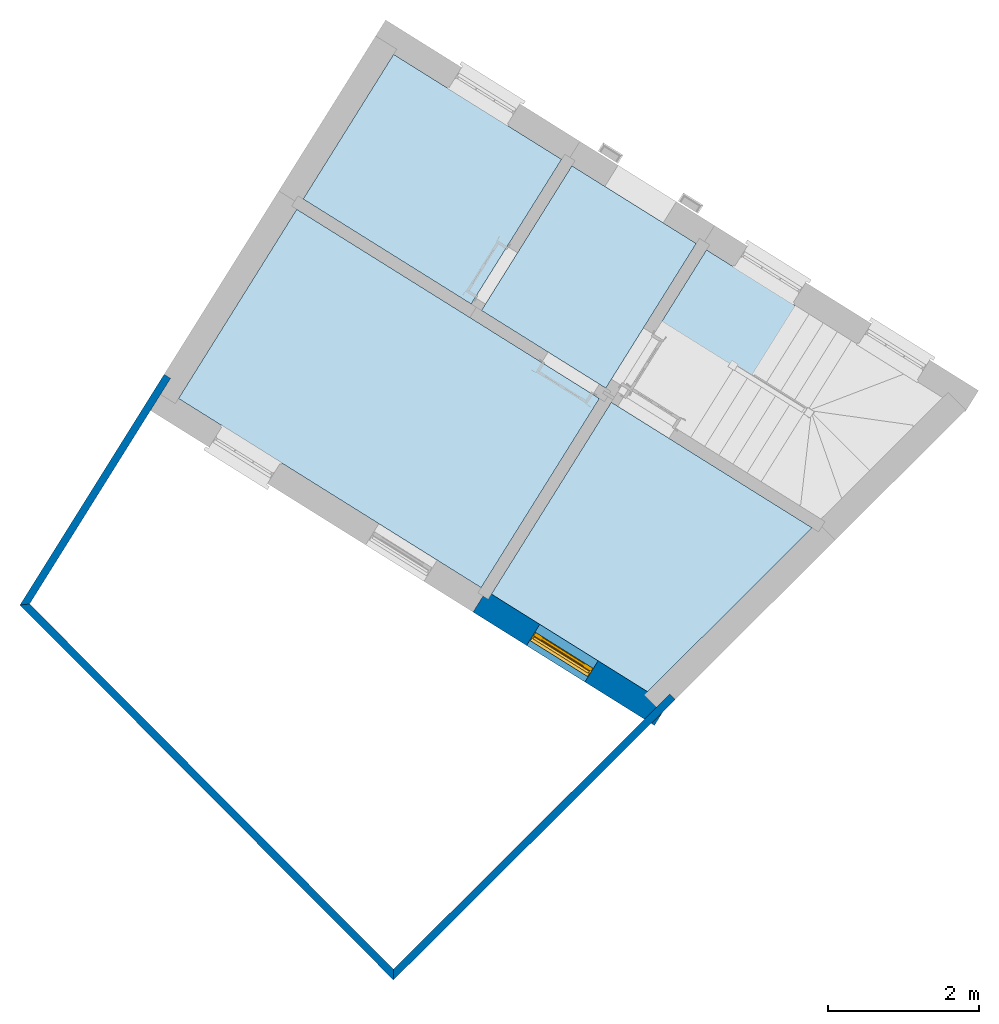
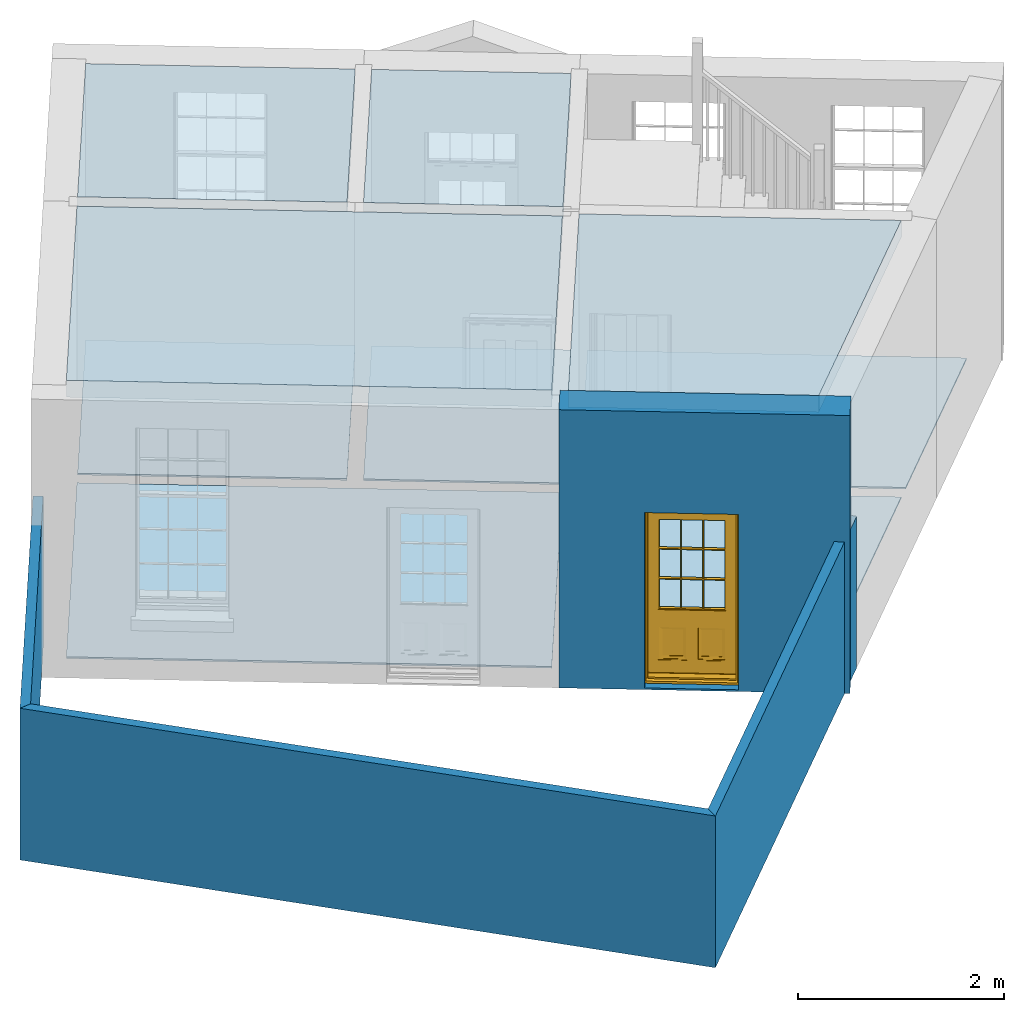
# One storey, part 1 of 5: 9 slabs, 4 walls, 1 door, 1 opening.
"""IFC4 building model written with IfcOpenShell, lengths in metres."""

import ifcopenshell
import ifcopenshell.guid

model = None  # the IFC model being written
_history = None  # IfcOwnerHistory: only IFC2X3 demands one
_inside = {}  # id of a spatial element -> (the spatial element, [elements in it])
_under = {}  # id of a project, library or spatial element -> (it, [spatial elements below it])
_declared = {}  # id of a project -> (the project, [libraries it declares])
_typed = {}  # id of a type object -> (the type object, [elements of that type])
_made_of = {}  # id of a material, layer set ... -> (it, [elements and type objects made of it])


def new_model(schema):
    """Start an empty IFC model of exactly this schema.

    Asked for "IFC4X3", IfcOpenShell would pick the latest addendum, in which some entities
    have other attributes; the version numbers below select the first issue.
    IFC2X3 requires an IfcOwnerHistory on every rooted entity: one is made here for all.
    """
    global model, _history
    if schema == "IFC4X3":
        model = ifcopenshell.file(schema_version=(4, 3, 0, 0))
    else:
        model = ifcopenshell.file(schema=schema)
    _inside.clear()
    _under.clear()
    _declared.clear()
    _typed.clear()
    _made_of.clear()
    _history = None
    if model.schema == "IFC2X3":
        org = make("IfcOrganization", Name="unknown")
        user = make(
            "IfcPersonAndOrganization",
            ThePerson=make("IfcPerson", FamilyName="unknown"),
            TheOrganization=org,
        )
        app = make(
            "IfcApplication",
            ApplicationDeveloper=org,
            Version="unknown",
            ApplicationFullName="unknown",
            ApplicationIdentifier="unknown",
        )
        _history = make(
            "IfcOwnerHistory",
            OwningUser=user,
            OwningApplication=app,
            ChangeAction="ADDED",
            CreationDate=0,
        )
    return model


def make(cls, **values):
    """One entity of the class cls with the attributes given. An attribute that is None is left unset."""
    return model.create_entity(
        cls, **{name: value for name, value in values.items() if value is not None}
    )


def rooted(cls, **values):
    """An entity with a GlobalId (a new one), such as an element, a storey or a relation."""
    return make(cls, GlobalId=ifcopenshell.guid.new(), OwnerHistory=_history, **values)


def si_unit(unit_type, name, prefix=None):
    """IfcSIUnit, for example si_unit("LENGTHUNIT", "METRE", prefix="MILLI")."""
    return make("IfcSIUnit", UnitType=unit_type, Prefix=prefix, Name=name)


def assignment(units):
    """IfcUnitAssignment: the units of a project."""
    return None if units is None else make("IfcUnitAssignment", Units=units)


def point(xyz):
    """IfcCartesianPoint."""
    return None if xyz is None else make("IfcCartesianPoint", Coordinates=xyz)


def direction(xyz):
    """IfcDirection."""
    return None if xyz is None else make("IfcDirection", DirectionRatios=xyz)


def frame(location, z_axis=None, x_axis=None):
    """IfcAxis2Placement3D, a coordinate frame: its origin and axes. An axis left out is left unset."""
    return make(
        "IfcAxis2Placement3D",
        Location=point(location),
        Axis=direction(z_axis),
        RefDirection=direction(x_axis),
    )


def origin():
    """The frame at (0, 0, 0) with its axes left unset."""
    return frame((0.0, 0.0, 0.0))


def origin_with_axes():
    """The frame at (0, 0, 0) with the z axis (0, 0, 1) and the x axis (1, 0, 0) written out."""
    return frame((0.0, 0.0, 0.0), z_axis=(0.0, 0.0, 1.0), x_axis=(1.0, 0.0, 0.0))


def place(relative_to, where):
    """IfcLocalPlacement: puts the frame where relative to a parent placement (None: the world)."""
    return make(
        "IfcLocalPlacement", PlacementRelTo=relative_to, RelativePlacement=where
    )


def context(
    kind, dimensions, precision=None, world=None, true_north=None, identifier=None
):
    """IfcGeometricRepresentationContext, for example the 3D "Model" context."""
    return make(
        "IfcGeometricRepresentationContext",
        ContextIdentifier=identifier,
        ContextType=kind,
        CoordinateSpaceDimension=dimensions,
        Precision=precision,
        WorldCoordinateSystem=world,
        TrueNorth=true_north,
    )


def subcontext(parent, identifier, kind, view, scale=None):
    """IfcGeometricRepresentationSubContext, for example "Body" below "Model"."""
    return make(
        "IfcGeometricRepresentationSubContext",
        ContextIdentifier=identifier,
        ContextType=kind,
        ParentContext=parent,
        TargetScale=scale,
        TargetView=view,
    )


def project(units=None, contexts=None):
    """IfcProject with its units and contexts."""
    return rooted(
        "IfcProject",
        Name="project",
        RepresentationContexts=contexts,
        UnitsInContext=assignment(units),
    )


def spatial(cls, under=None, at=None, **own):
    """A site, building, storey or space (cls), placed at a placement, below another one or the project."""
    s = rooted(cls, ObjectPlacement=at, **own)
    if under is not None:
        _under.setdefault(under.id(), (under, []))[1].append(s)
    return s


def polyline(points):
    """IfcPolyline through the points."""
    return make("IfcPolyline", Points=[point(p) for p in points])


def outline(outer, holes=None, kind="AREA"):
    """IfcArbitraryClosedProfileDef: a profile drawn as a closed curve; with holes, ...WithVoids."""
    if holes is None:
        return make("IfcArbitraryClosedProfileDef", ProfileType=kind, OuterCurve=outer)
    return make(
        "IfcArbitraryProfileDefWithVoids",
        ProfileType=kind,
        OuterCurve=outer,
        InnerCurves=holes,
    )


def extrude(swept, where, along, depth):
    """IfcExtrudedAreaSolid: the profile swept, set in the frame where, extruded along a direction by depth."""
    return make(
        "IfcExtrudedAreaSolid",
        SweptArea=swept,
        Position=where,
        ExtrudedDirection=direction(along),
        Depth=depth,
    )


def faces_of(points, faces, orient=None, outer=None):
    """IfcFace entities. A face is a list of loops; a loop is a list of indices into points, from 0.

    orient and outer hold one flag for each loop. By default every Orientation is true, the
    first loop of a face is its IfcFaceOuterBound and the others are IfcFaceBound.
    """
    made = []
    for i, loops in enumerate(faces):
        bounds = []
        for j, loop in enumerate(loops):
            is_outer = j == 0 if outer is None else outer[i][j]
            bounds.append(
                make(
                    "IfcFaceOuterBound" if is_outer else "IfcFaceBound",
                    Bound=make("IfcPolyLoop", Polygon=[points[k] for k in loop]),
                    Orientation=True if orient is None else orient[i][j],
                )
            )
        made.append(make("IfcFace", Bounds=bounds))
    return made


def faceted_brep(points, faces, orient=None, outer=None, voids=None):
    """IfcFacetedBrep: a solid bounded by flat faces; with voids (closed shells), ...WithVoids."""
    shared = [point(p) for p in points]
    hull = make("IfcClosedShell", CfsFaces=faces_of(shared, faces, orient, outer))
    if voids is None:
        return make("IfcFacetedBrep", Outer=hull)
    return make(
        "IfcFacetedBrepWithVoids",
        Outer=hull,
        Voids=[
            make(cls, CfsFaces=faces_of(shared, fs, o, b)) for cls, fs, o, b in voids
        ],
    )


def shape(context_of_items, identifier, shape_type, items):
    """IfcShapeRepresentation: the items that make up one representation, for example the "Body"."""
    return make(
        "IfcShapeRepresentation",
        ContextOfItems=context_of_items,
        RepresentationIdentifier=identifier,
        RepresentationType=shape_type,
        Items=items,
    )


def source(mapping_origin, context_of_items, identifier, shape_type, items):
    """IfcRepresentationMap: a shape defined once, which mapped items show again and again."""
    return make(
        "IfcRepresentationMap",
        MappingOrigin=mapping_origin,
        MappedRepresentation=shape(context_of_items, identifier, shape_type, items),
    )


def transform(
    local_origin,
    x_axis=None,
    y_axis=None,
    z_axis=None,
    scale=None,
    scale2=None,
    scale3=None,
    uniform=True,
):
    """IfcCartesianTransformationOperator3D, or its non-uniform kind. x_axis, y_axis, z_axis: its Axis1, 2, 3."""
    if uniform:
        return make(
            "IfcCartesianTransformationOperator3D",
            Axis1=direction(x_axis),
            Axis2=direction(y_axis),
            LocalOrigin=point(local_origin),
            Scale=scale,
            Axis3=direction(z_axis),
        )
    return make(
        "IfcCartesianTransformationOperator3DnonUniform",
        Axis1=direction(x_axis),
        Axis2=direction(y_axis),
        LocalOrigin=point(local_origin),
        Scale=scale,
        Axis3=direction(z_axis),
        Scale2=scale2,
        Scale3=scale3,
    )


def mapped(mapping_source, mapping_target):
    """IfcMappedItem: shows the shape of a source again, moved by a transform."""
    return make(
        "IfcMappedItem", MappingSource=mapping_source, MappingTarget=mapping_target
    )


def material(Name=None, Category=None):
    """IfcMaterial."""
    return make("IfcMaterial", Name=Name, Category=Category)


def layer(
    of_material, thickness, ventilated=None, Name=None, Category=None, Priority=None
):
    """IfcMaterialLayer: one layer of a wall or slab, of a material (None: an air gap)."""
    return make(
        "IfcMaterialLayer",
        Material=of_material,
        LayerThickness=thickness,
        IsVentilated=ventilated,
        Name=Name,
        Category=Category,
        Priority=Priority,
    )


def layer_set(layers, Name=None):
    """IfcMaterialLayerSet."""
    return make("IfcMaterialLayerSet", MaterialLayers=layers, LayerSetName=Name)


def layer_usage(for_layer_set, set_direction, sense, offset, extent=None):
    """IfcMaterialLayerSetUsage: how a layer set lies in its element."""
    return make(
        "IfcMaterialLayerSetUsage",
        ForLayerSet=for_layer_set,
        LayerSetDirection=set_direction,
        DirectionSense=sense,
        OffsetFromReferenceLine=offset,
        ReferenceExtent=extent,
    )


def made_of(thing, what):
    """Note that an element or type object is made of a material, layer set ...; save() writes the relation."""
    if what is not None:
        _made_of.setdefault(what.id(), (what, []))[1].append(thing)
    return thing


def type_object(cls, material=None, **own):
    """A type object (cls), such as IfcWallType, which elements share."""
    return made_of(rooted(cls, **own), material)


def type_shapes(of_type, sources):
    """Give a type object the sources (RepresentationMaps) that its elements show as mapped items."""
    of_type.RepresentationMaps = sources


def element(
    cls,
    number,
    at=None,
    inside=None,
    cuts=None,
    type_object=None,
    material=None,
    context=None,
    identifier="Body",
    shape_type=None,
    held_by="IfcProductDefinitionShape",
    body=None,
    shapes=None,
    **own,
):
    """One element of the class cls, such as IfcWall. Its Tag is "e" and its number.

    at: its placement. inside: the storey or other place that contains it. cuts: it is an
    opening in that element (IfcRelVoidsElement). A single representation is given by context,
    identifier, shape_type and body (its items); several are given by shapes. held_by: the class
    of the entity that holds the representations. save() writes the other relations.
    """
    e = rooted(cls, Tag="e%d" % number, ObjectPlacement=at, **own)
    if body is not None:
        shapes = [shape(context, identifier, shape_type, body)]
    if shapes is not None:
        e.Representation = make(held_by, Representations=shapes)
    if inside is not None:
        _inside.setdefault(inside.id(), (inside, []))[1].append(e)
    if cuts is not None:
        rooted(
            "IfcRelVoidsElement", RelatingBuildingElement=cuts, RelatedOpeningElement=e
        )
    if type_object is not None:
        _typed.setdefault(type_object.id(), (type_object, []))[1].append(e)
    return made_of(e, material)


def fill(opening, filler):
    """IfcRelFillsElement: the door or window that sits in an opening."""
    return rooted(
        "IfcRelFillsElement",
        RelatingOpeningElement=opening,
        RelatedBuildingElement=filler,
    )


def aggregate(whole, parts):
    """IfcRelAggregates: a whole, such as a stair, and the parts it consists of."""
    return rooted("IfcRelAggregates", RelatingObject=whole, RelatedObjects=parts)


def save(model, path):
    """Write the relations noted so far, then the file.

    IfcRelAggregates (storeys below a building ...), IfcRelContainedInSpatialStructure (elements
    in a storey), IfcRelDefinesByType, IfcRelAssociatesMaterial and IfcRelDeclares: one each for
    every whole, place, type object, material and project.
    """
    for whole, parts in _under.values():
        aggregate(whole, parts)
    for where, things in _inside.values():
        rooted(
            "IfcRelContainedInSpatialStructure",
            RelatedElements=things,
            RelatingStructure=where,
        )
    for kind, things in _typed.values():
        rooted("IfcRelDefinesByType", RelatedObjects=things, RelatingType=kind)
    for what, things in _made_of.values():
        rooted("IfcRelAssociatesMaterial", RelatedObjects=things, RelatingMaterial=what)
    for by, libraries in _declared.values():
        rooted("IfcRelDeclares", RelatingContext=by, RelatedDefinitions=libraries)
    model.write(path)


model = new_model("IFC4")

# Units and contexts
model_context = context("Model", 3, world=origin_with_axes())
body_context = subcontext(model_context, "Body", "Model", "MODEL_VIEW")
ifc_project = project(units=[si_unit("PLANEANGLEUNIT", "RADIAN"), si_unit("MASSUNIT", "GRAM", prefix="KILO"), si_unit("FORCEUNIT", "NEWTON", prefix="KILO"), si_unit("LENGTHUNIT", "METRE"), si_unit("AREAUNIT", "SQUARE_METRE"), si_unit("VOLUMEUNIT", "CUBIC_METRE")], contexts=[model_context, model_context])

# Sites, building, storey
site_1_placement = place(None, origin_with_axes())
site_1 = spatial("IfcSite", under=ifc_project, at=site_1_placement, Name="Tamar")
site_2_placement = place(site_1_placement, origin_with_axes())
site_2 = spatial("IfcSite", under=site_1, at=site_2_placement, Name="Site plot-4", CompositionType="ELEMENT")
building_placement = place(None, origin_with_axes())
building = spatial("IfcBuilding", under=site_2, at=building_placement, Name="Building plot-4", CompositionType="ELEMENT")
storey_placement = place(None, frame((0.0, 0.0, 24.5), z_axis=(0.0, 0.0, 1.0), x_axis=(1.0, 0.0, 0.0)))
storey = spatial("IfcBuildingStorey", under=building, at=storey_placement, Name="plot-4 0", CompositionType="ELEMENT", Elevation=24.5)

# Slabs
slab_1_placement = place(storey_placement, frame((226.438338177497, 279.911492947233, 0.0)))
element("IfcSlab", 1, at=slab_1_placement, inside=storey, Name="My Slab", ObjectType="Slab", PredefinedType="FLOOR", context=body_context, shape_type="SweptSolid", body=[
    extrude(outline(polyline([(0.0, 0.0), (1.61213438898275, 1.60548165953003), (-1.51402882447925, 3.55947500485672), (-2.68851033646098, 1.68044051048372), (0.0, 0.0)])), origin_with_axes(), (0.0, 0.0, 1.0), 0.02),
])
slab_2_placement = place(storey_placement, frame((223.665023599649, 281.456256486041, 3.1)))
element("IfcSlab", 2, at=slab_2_placement, inside=storey, Name="My Slab", ObjectType="Slab", PredefinedType="FLOOR", context=body_context, shape_type="SweptSolid", body=[
    extrude(outline(polyline([(0.0, 0.0), (-1.58587509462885, -2.53721661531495), (0.480081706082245, -3.82853301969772), (2.65690931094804, -1.66068844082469), (0.0, 0.0)])), origin_with_axes(), (0.0, 0.0, 1.0), 0.2),
])
slab_3_placement = place(storey_placement, frame((223.665023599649, 281.456256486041, 0.0)))
element("IfcSlab", 3, at=slab_3_placement, inside=storey, Name="My Slab", ObjectType="Slab", PredefinedType="FLOOR", context=body_context, shape_type="SweptSolid", body=[
    extrude(outline(polyline([(0.0, 0.0), (-1.58587509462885, -2.53721661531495), (0.480081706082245, -3.82853301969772), (2.65690931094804, -1.66068844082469), (0.0, 0.0)])), origin_with_axes(), (0.0, 0.0, 1.0), 0.02),
])
slab_4_placement = place(storey_placement, frame((219.504855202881, 284.008485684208, 3.1)))
element("IfcSlab", 4, at=slab_4_placement, inside=storey, Name="My Slab", ObjectType="Slab", PredefinedType="FLOOR", context=body_context, shape_type="SweptSolid", body=[
    extrude(outline(polyline([(0.0, 0.0), (-1.5642725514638, -2.50265504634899), (2.43861633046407, -5.00464157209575), (4.00288888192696, -2.5019865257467), (0.0, 0.0)])), origin_with_axes(), (0.0, 0.0, 1.0), 0.2),
])
slab_5_placement = place(storey_placement, frame((219.504855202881, 284.008485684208, 0.0)))
element("IfcSlab", 5, at=slab_5_placement, inside=storey, Name="My Slab", ObjectType="Slab", PredefinedType="FLOOR", context=body_context, shape_type="SweptSolid", body=[
    extrude(outline(polyline([(0.0, 0.0), (-1.5642725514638, -2.50265504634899), (2.43861633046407, -5.00464157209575), (4.00288888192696, -2.5019865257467), (0.0, 0.0)])), origin_with_axes(), (0.0, 0.0, 1.0), 0.02),
])
slab_6_placement = place(storey_placement, frame((224.788632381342, 283.555772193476, 3.1)))
element("IfcSlab", 6, at=slab_6_placement, inside=storey, Name="My Slab", ObjectType="Slab", PredefinedType="FLOOR", context=body_context, shape_type="SweptSolid", body=[
    extrude(outline(polyline([(0.0, 0.0), (-1.6449898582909, 1.02819303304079), (-2.84107391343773, -0.885403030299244), (-1.19608405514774, -1.91359606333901), (0.0, 0.0)])), origin_with_axes(), (0.0, 0.0, 1.0), 0.2),
])
slab_7_placement = place(storey_placement, frame((224.788632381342, 283.555772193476, 0.0)))
element("IfcSlab", 7, at=slab_7_placement, inside=storey, Name="My Slab", ObjectType="Slab", PredefinedType="FLOOR", context=body_context, shape_type="SweptSolid", body=[
    extrude(outline(polyline([(0.0, 0.0), (-1.6449898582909, 1.02819303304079), (-2.84107391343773, -0.885403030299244), (-1.19608405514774, -1.91359606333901), (0.0, 0.0)])), origin_with_axes(), (0.0, 0.0, 1.0), 0.02),
])
slab_8_placement = place(storey_placement, frame((223.007965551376, 284.668769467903, 3.1)))
element("IfcSlab", 8, at=slab_8_placement, inside=storey, Name="My Slab", ObjectType="Slab", PredefinedType="FLOOR", context=body_context, shape_type="SweptSolid", body=[
    extrude(outline(polyline([(0.0, 0.0), (-2.22222205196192, 1.38898925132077), (-3.41830610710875, -0.524606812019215), (-1.19608405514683, -1.91359606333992), (0.0, 0.0)])), origin_with_axes(), (0.0, 0.0, 1.0), 0.2),
])
slab_9_placement = place(storey_placement, frame((223.007965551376, 284.668769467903, 0.0)))
element("IfcSlab", 9, at=slab_9_placement, inside=storey, Name="My Slab", ObjectType="Slab", PredefinedType="FLOOR", context=body_context, shape_type="SweptSolid", body=[
    extrude(outline(polyline([(0.0, 0.0), (-2.22222205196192, 1.38898925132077), (-3.41830610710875, -0.524606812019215), (-1.19608405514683, -1.91359606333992), (0.0, 0.0)])), origin_with_axes(), (0.0, 0.0, 1.0), 0.02),
])

# Wall, opening, door
ifc_material_1 = material(Name="Masonry")
ifc_layer_1 = layer(ifc_material_1, 0.33, ventilated=False)
ifc_layer_set_1 = layer_set([ifc_layer_1], Name="exterior_0.08_0.25")
ifc_layer_usage_1 = layer_usage(ifc_layer_set_1, "AXIS2", "POSITIVE", -0.25)
wall_type_1 = type_object("IfcWallType", Name="exterior_0.08_0.25", PredefinedType="SOLIDWALL", material=ifc_layer_set_1)
wall_1_placement = place(storey_placement, frame((221.96890789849, 278.893603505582, 0.0), z_axis=(0.0, 0.0, 1.0), x_axis=(0.847981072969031, -0.530026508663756, 0.0)))
wall_1 = element("IfcWall", 10, at=wall_1_placement, inside=storey, type_object=wall_type_1, material=ifc_layer_usage_1, Name="exterior", context=body_context, shape_type="SweptSolid", body=[
    extrude(outline(polyline([(-9.40979266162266e-15, 0.0799999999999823), (2.26026254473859e-14, -0.250000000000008), (2.82983238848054, -0.250000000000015), (2.82983238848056, 0.0800000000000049), (-9.40979266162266e-15, 0.0799999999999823)])), origin_with_axes(), (0.0, 0.0, 1.0), 3.3),
])
opening_placement = place(wall_1_placement, frame((0.834916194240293, 0.0, 0.0199999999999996)))
opening = element("IfcOpeningElement", 11, at=opening_placement, cuts=wall_1, Name="My Opening", ObjectType="Opening", context=body_context, shape_type="SweptSolid", body=[
    extrude(outline(polyline([(0.0, -0.270000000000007), (0.90999999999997, -0.269999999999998), (0.909999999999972, 1.09999999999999), (2.44249065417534e-15, 1.09999999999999), (0.0, -0.270000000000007)])), origin_with_axes(), (0.0, 0.0, 1.0), 2.08),
])
door_type = type_object("IfcDoorType", Name="door_panelled", OperationType="SINGLE_SWING_LEFT", PredefinedType="NOTDEFINED")
shared_shape = source(origin(), body_context, "Body", "Brep", [
    faceted_brep([(0.545, 0.195, 0.265), (0.745, 0.195, 0.265), (0.745, 0.2, 0.265), (0.545, 0.2, 0.265), (0.745, 0.2, 0.58), (0.545, 0.2, 0.58), (0.545, 0.195, 0.58), (0.515, 0.19, 0.235), (0.775, 0.19, 0.235), (0.745, 0.195, 0.58), (0.515, 0.19, 0.61), (0.515, 0.185, 0.235), (0.775, 0.185, 0.235), (0.775, 0.19, 0.61), (0.515, 0.185, 0.61), (0.785, 0.185, 0.225), (0.505, 0.185, 0.225), (0.775, 0.185, 0.61), (0.505, 0.185, 0.62), (0.785, 0.185, 0.62), (0.505, 0.18, 0.225), (0.785, 0.18, 0.225), (0.505, 0.18, 0.62), (0.785, 0.18, 0.62), (0.883, 0.18, 0.075), (0.898, 0.18, 0.075), (0.405, 0.18, 0.62), (0.405, 0.18, 0.225), (0.027, 0.18, 0.075), (0.785, 0.18, 0.82), (0.125, 0.18, 0.82), (0.405, 0.185, 0.62), (0.405, 0.185, 0.225), (0.898, 0.18, 2.068), (0.027, 0.17, 0.075), (0.883, 0.17, 0.075), (0.125, 0.18, 0.225), (0.012, 0.18, 0.075), (0.785, 0.19, 0.82), (0.125, 0.19, 0.82), (0.125, 0.18, 0.62), (0.125, 0.185, 0.62), (0.395, 0.185, 0.61), (0.395, 0.185, 0.235), (0.125, 0.185, 0.225), (0.785, 0.18, 1.895), (0.027, 0.14, 0.045), (0.883, 0.14, 0.045), (0.558333, 0.19, 0.83), (0.351667, 0.19, 0.83), (0.125, 0.18, 1.895), (0.125, 0.19, 1.895), (0.785, 0.19, 1.895), (0.012, 0.18, 2.068), (0.135, 0.185, 0.61), (0.395, 0.19, 0.61), (0.395, 0.19, 0.235), (0.135, 0.185, 0.235), (0.027, 0.14, 0.027), (0.883, 0.14, 0.027), (0.568333, 0.19, 0.83), (0.558333, 0.22, 0.83), (0.351667, 0.22, 0.83), (0.341667, 0.19, 0.83), (0.135, 0.19, 1.185), (0.135, 0.19, 1.53), (0.775, 0.19, 1.53), (0.775, 0.19, 1.185), (0.135, 0.19, 0.61), (0.365, 0.195, 0.58), (0.365, 0.195, 0.265), (0.135, 0.19, 0.235), (0.568333, 0.19, 1.175), (0.558333, 0.19, 1.175), (0.775, 0.19, 0.83), (0.558333, 0.22, 1.175), (0.785, 0.22, 0.82), (0.125, 0.22, 0.82), (0.351667, 0.22, 1.175), (0.351667, 0.19, 1.175), (0.341667, 0.19, 1.175), (0.135, 0.19, 0.83), (0.135, 0.19, 1.175), (0.135, 0.22, 1.185), (0.135, 0.22, 1.53), (0.135, 0.19, 1.54), (0.351667, 0.19, 1.885), (0.558333, 0.19, 1.885), (0.775, 0.22, 1.53), (0.775, 0.22, 1.185), (0.775, 0.19, 1.175), (0.775, 0.19, 1.54), (0.165, 0.195, 0.58), (0.365, 0.2, 0.58), (0.365, 0.2, 0.265), (0.165, 0.195, 0.265), (0.568333, 0.22, 0.83), (0.568333, 0.22, 1.175), (0.568333, 0.19, 1.185), (0.558333, 0.19, 1.185), (0.775, 0.22, 0.83), (0.785, 0.23, 0.82), (0.125, 0.23, 0.82), (0.341667, 0.22, 0.83), (0.341667, 0.22, 1.175), (0.351667, 0.19, 1.185), (0.341667, 0.19, 1.185), (0.135, 0.22, 0.83), (0.341667, 0.22, 1.185), (0.125, 0.22, 1.895), (0.341667, 0.22, 1.53), (0.341667, 0.19, 1.53), (0.135, 0.19, 1.885), (0.341667, 0.19, 1.54), (0.341667, 0.19, 1.885), (0.558333, 0.22, 1.885), (0.351667, 0.22, 1.885), (0.568333, 0.19, 1.885), (0.785, 0.22, 1.895), (0.568333, 0.22, 1.185), (0.568333, 0.19, 1.53), (0.568333, 0.22, 1.53), (0.568333, 0.19, 1.54), (0.775, 0.19, 1.885), (0.165, 0.2, 0.58), (0.165, 0.2, 0.265), (0.775, 0.22, 1.175), (0.558333, 0.19, 1.53), (0.351667, 0.22, 1.185), (0.558333, 0.22, 1.185), (0.505, 0.23, 0.62), (0.405, 0.23, 0.62), (0.125, 0.23, 1.895), (0.785, 0.23, 1.895), (0.351667, 0.19, 1.53), (0.135, 0.22, 1.175), (0.135, 0.22, 1.54), (0.341667, 0.22, 1.54), (0.135, 0.22, 1.885), (0.351667, 0.19, 1.54), (0.558333, 0.22, 1.54), (0.558333, 0.19, 1.54), (0.351667, 0.22, 1.54), (0.775, 0.22, 1.54), (0.568333, 0.22, 1.54), (0.775, 0.22, 1.885), (0.558333, 0.22, 1.53), (0.405, 0.23, 0.225), (0.505, 0.23, 0.225), (0.125, 0.23, 0.62), (0.785, 0.23, 0.62), (0.012, 0.23, 2.068), (0.898, 0.23, 2.068), (0.351667, 0.22, 1.53), (0.341667, 0.22, 1.885), (0.568333, 0.22, 1.885), (0.405, 0.225, 0.225), (0.405, 0.225, 0.62), (0.505, 0.225, 0.62), (0.505, 0.225, 0.225), (0.898, 0.23, 0.027), (0.012, 0.23, 0.027), (0.125, 0.225, 0.62), (0.785, 0.225, 0.62), (0.395, 0.225, 0.235), (0.395, 0.225, 0.61), (0.125, 0.23, 0.225), (0.125, 0.225, 0.225), (0.515, 0.225, 0.61), (0.515, 0.225, 0.235), (0.785, 0.23, 0.225), (0.785, 0.225, 0.225), (0.135, 0.225, 0.61), (0.775, 0.225, 0.61), (0.135, 0.225, 0.235), (0.395, 0.22, 0.235), (0.395, 0.22, 0.61), (0.515, 0.22, 0.61), (0.515, 0.22, 0.235), (0.775, 0.225, 0.235), (0.135, 0.22, 0.61), (0.775, 0.22, 0.61), (0.135, 0.22, 0.235), (0.365, 0.215, 0.265), (0.365, 0.215, 0.58), (0.545, 0.215, 0.58), (0.545, 0.215, 0.265), (0.775, 0.22, 0.235), (0.165, 0.215, 0.58), (0.745, 0.215, 0.58), (0.165, 0.215, 0.265), (0.365, 0.21, 0.58), (0.365, 0.21, 0.265), (0.545, 0.21, 0.58), (0.545, 0.21, 0.265), (0.745, 0.215, 0.265), (0.165, 0.21, 0.58), (0.745, 0.21, 0.58), (0.165, 0.21, 0.265), (0.745, 0.21, 0.265), (0.885, 0.178, 0.025), (0.025, 0.178, 0.025), (0.025, 0.15, 0.025), (0.885, 0.15, 0.025), (0.9, 0.23, 0.025), (0.01, 0.23, 0.025), (0.9, 0.178, 0.025), (0.91, 0.23, 0.0), (0.0, 0.23, 0.0), (0.01, 0.178, 0.025), (0.9, 0.178, 2.07), (0.9, 0.23, 2.07), (0.885, 0.178, 2.055), (0.91, 0.23, 2.08), (0.01, 0.23, 2.07), (0.0, 0.23, 2.08), (0.01, 0.178, 2.07), (0.025, 0.178, 2.055), (0.0, 0.1, 2.08), (0.91, 0.1, 2.08), (0.01, 0.1, 2.07), (0.9, 0.1, 2.07), (0.01, 0.15, 2.07), (0.9, 0.15, 2.07), (0.0, 0.1, 0.0), (0.91, 0.1, 0.0), (0.01, 0.1, 0.025), (0.9, 0.1, 0.025), (0.01, 0.15, 0.025), (0.025, 0.15, 2.055), (0.9, 0.15, 0.025), (0.885, 0.15, 2.055), (0.898, 0.18, 0.027), (0.012, 0.18, 0.027), (0.883, 0.18, 0.027), (0.027, 0.18, 0.027)], [[[0, 1, 2, 3]], [[2, 4, 5, 3]], [[0, 3, 5, 6]], [[1, 0, 7, 8]], [[9, 4, 2, 1]], [[9, 6, 5, 4]], [[0, 6, 10, 7]], [[8, 7, 11, 12]], [[8, 13, 9, 1]], [[13, 10, 6, 9]], [[7, 10, 14, 11]], [[15, 12, 11, 16]], [[12, 17, 13, 8]], [[17, 14, 10, 13]], [[18, 16, 11, 14]], [[15, 19, 17, 12]], [[15, 16, 20, 21]], [[14, 17, 19, 18]], [[16, 18, 22, 20]], [[21, 23, 19, 15]], [[24, 25, 21, 20]], [[23, 22, 18, 19]], [[20, 22, 26, 27]], [[23, 21, 25]], [[28, 24, 20, 27]], [[22, 23, 29]], [[29, 30, 26, 22]], [[27, 26, 31, 32]], [[23, 25, 33, 29]], [[34, 35, 24, 28]], [[28, 27, 36, 37]], [[38, 39, 30, 29]], [[26, 30, 40]], [[26, 40, 41, 31]], [[42, 43, 32, 31]], [[32, 44, 36, 27]], [[33, 45, 29]], [[46, 47, 35, 34]], [[36, 40, 37]], [[39, 38, 48, 49]], [[50, 30, 39, 51]], [[29, 45, 52, 38]], [[53, 37, 40, 30]], [[44, 41, 40, 36]], [[31, 41, 54, 42]], [[43, 42, 55, 56]], [[57, 44, 32, 43]], [[50, 45, 33, 53]], [[47, 46, 58, 59]], [[60, 48, 38]], [[49, 48, 61, 62]], [[49, 63, 39]], [[50, 53, 30]], [[51, 39, 64, 65]], [[45, 50, 51, 52]], [[66, 67, 38, 52]], [[57, 54, 41, 44]], [[42, 54, 68, 55]], [[56, 55, 69, 70]], [[56, 71, 57, 43]], [[60, 72, 73, 48]], [[60, 38, 74]], [[48, 73, 75, 61]], [[76, 77, 62, 61]], [[62, 78, 79, 49]], [[49, 79, 80, 63]], [[63, 81, 39]], [[82, 64, 39]], [[65, 64, 83, 84]], [[85, 51, 65]], [[52, 51, 86, 87]], [[88, 89, 67, 66]], [[90, 38, 67]], [[91, 66, 52]], [[71, 68, 54, 57]], [[55, 68, 92, 69]], [[69, 93, 94, 70]], [[70, 95, 71, 56]], [[96, 97, 72, 60]], [[73, 72, 98, 99]], [[74, 38, 90]], [[100, 96, 60, 74]], [[75, 73, 79, 78]], [[61, 75, 97, 96]], [[101, 102, 77, 76]], [[77, 103, 62]], [[96, 76, 61]], [[103, 104, 78, 62]], [[80, 79, 105, 106]], [[63, 80, 104, 103]], [[81, 63, 103, 107]], [[81, 82, 39]], [[106, 64, 82, 80]], [[106, 108, 83, 64]], [[84, 83, 77, 109]], [[110, 111, 65, 84]], [[112, 51, 85]], [[113, 85, 65, 111]], [[114, 86, 51]], [[115, 87, 86, 116]], [[117, 52, 87]], [[118, 76, 89, 88]], [[119, 98, 67, 89]], [[120, 121, 88, 66]], [[67, 98, 72, 90]], [[91, 122, 120, 66]], [[91, 52, 123]], [[95, 92, 68, 71]], [[69, 92, 124, 93]], [[94, 93, 124, 125]], [[94, 125, 95, 70]], [[72, 97, 126, 90]], [[127, 99, 98, 120]], [[99, 105, 79, 73]], [[74, 90, 126, 100]], [[96, 100, 76]], [[128, 129, 75, 78]], [[97, 75, 129, 119]], [[130, 131, 102, 101]], [[109, 77, 102, 132]], [[133, 101, 76, 118]], [[77, 107, 103]], [[78, 104, 108, 128]], [[111, 106, 105, 134]], [[104, 80, 82, 135]], [[107, 135, 82, 81]], [[110, 108, 106, 111]], [[104, 135, 83, 108]], [[83, 135, 77]], [[136, 84, 109]], [[110, 84, 136, 137]], [[114, 51, 112]], [[85, 136, 138, 112]], [[113, 137, 136, 85]], [[111, 134, 139, 113]], [[86, 114, 113, 139]], [[140, 141, 87, 115]], [[139, 142, 116, 86]], [[109, 118, 115, 116]], [[117, 123, 52]], [[117, 87, 141, 122]], [[126, 89, 76]], [[143, 118, 88]], [[120, 98, 119, 121]], [[119, 89, 126, 97]], [[144, 143, 88, 121]], [[144, 122, 91, 143]], [[127, 120, 122, 141]], [[143, 91, 123, 145]], [[124, 92, 95, 125]], [[146, 129, 99, 127]], [[99, 129, 128, 105]], [[100, 126, 76]], [[121, 119, 129, 146]], [[147, 131, 130, 148]], [[131, 149, 102]], [[130, 101, 150]], [[102, 151, 132]], [[118, 109, 132, 133]], [[101, 133, 152]], [[107, 77, 135]], [[153, 128, 108, 110]], [[134, 105, 128, 153]], [[109, 138, 136]], [[153, 110, 137, 142]], [[154, 114, 112, 138]], [[137, 113, 114, 154]], [[141, 139, 134, 127]], [[141, 140, 142, 139]], [[144, 140, 115, 155]], [[142, 137, 154, 116]], [[155, 115, 118]], [[116, 154, 109]], [[117, 155, 145, 123]], [[122, 144, 155, 117]], [[143, 145, 118]], [[121, 146, 140, 144]], [[146, 127, 134, 153]], [[156, 157, 131, 147]], [[148, 130, 158, 159]], [[148, 160, 161, 147]], [[157, 162, 149, 131]], [[161, 151, 102, 149]], [[101, 152, 160, 150]], [[163, 158, 130, 150]], [[151, 152, 133, 132]], [[154, 138, 109]], [[142, 140, 146, 153]], [[145, 155, 118]], [[157, 156, 164, 165]], [[147, 166, 167, 156]], [[168, 169, 159, 158]], [[170, 148, 159, 171]], [[148, 170, 160]], [[166, 147, 161]], [[172, 162, 157, 165]], [[166, 149, 162, 167]], [[166, 161, 149]], [[150, 160, 170]], [[163, 173, 168, 158]], [[171, 163, 150, 170]], [[174, 164, 156, 167]], [[175, 176, 165, 164]], [[169, 168, 177, 178]], [[171, 159, 169, 179]], [[167, 162, 172, 174]], [[176, 180, 172, 165]], [[179, 173, 163, 171]], [[181, 177, 168, 173]], [[164, 174, 182, 175]], [[183, 184, 176, 175]], [[178, 177, 185, 186]], [[179, 169, 178, 187]], [[174, 172, 180, 182]], [[184, 188, 180, 176]], [[187, 181, 173, 179]], [[189, 185, 177, 181]], [[175, 182, 190, 183]], [[191, 184, 183, 192]], [[185, 193, 194, 186]], [[187, 178, 186, 195]], [[182, 180, 188, 190]], [[191, 196, 188, 184]], [[195, 189, 181, 187]], [[197, 193, 185, 189]], [[183, 190, 198, 192]], [[198, 196, 191, 192]], [[194, 193, 197, 199]], [[195, 186, 194, 199]], [[188, 196, 198, 190]], [[197, 189, 195, 199]], [[200, 201, 202, 203]], [[201, 200, 204, 205]], [[206, 204, 200]], [[204, 207, 208, 205]], [[209, 201, 205]], [[210, 211, 204, 206]], [[206, 200, 212, 210]], [[211, 213, 207, 204]], [[214, 205, 208, 215]], [[216, 217, 201, 209]], [[205, 214, 216, 209]], [[216, 214, 211, 210]], [[210, 212, 217, 216]], [[214, 215, 213, 211]], [[218, 219, 213, 215]], [[219, 218, 220, 221]], [[221, 220, 222, 223]], [[215, 208, 224, 218]], [[225, 224, 208, 207]], [[224, 226, 220, 218]], [[224, 225, 227, 226]], [[219, 225, 207, 213]], [[228, 222, 220, 226]], [[219, 221, 227, 225]], [[226, 227, 203, 202]], [[202, 229, 222, 228]], [[228, 226, 202]], [[227, 221, 223, 230]], [[230, 203, 227]], [[217, 229, 202, 201]], [[231, 223, 222, 229]], [[230, 223, 231, 203]], [[231, 229, 217, 212]], [[212, 200, 203, 231]], [[33, 152, 151, 53]], [[25, 160, 152, 33]], [[161, 37, 53, 151]], [[232, 160, 25]], [[161, 233, 37]], [[160, 232, 234]], [[24, 234, 232, 25]], [[233, 161, 235]], [[37, 233, 235, 28]], [[161, 160, 234, 235]], [[35, 47, 234, 24]], [[28, 235, 46, 34]], [[58, 235, 234, 59]], [[59, 234, 47]], [[58, 46, 235]]]),
])
type_shapes(door_type, [shared_shape])
door_placement = place(storey_placement, frame((222.533793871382, 278.22212090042, 0.0199999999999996), z_axis=(0.0, 0.0, 1.0), x_axis=(0.771662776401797, -0.482324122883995, 0.0)))
door = element("IfcDoor", 12, at=door_placement, inside=storey, type_object=door_type, Name="bedroom outside door", OverallHeight=2.08, OverallWidth=0.91, context=body_context, shape_type="MappedRepresentation", body=[
    mapped(shared_shape, transform((0.0, 0.0, 0.0), scale=1.0)),
])
fill(opening, door)

# Walls
ifc_material_2 = material(Name="Masonry")
ifc_layer_2 = layer(ifc_material_2, 0.1, ventilated=False)
ifc_layer_set_2 = layer_set([ifc_layer_2], Name="fence_-0.15_0.25")
ifc_layer_usage_2 = layer_usage(ifc_layer_set_2, "AXIS2", "POSITIVE", -0.25)
wall_type_2 = type_object("IfcWallType", Name="fence_-0.15_0.25", PredefinedType="SOLIDWALL", material=ifc_layer_set_2)
wall_2_placement = place(storey_placement, frame((217.830342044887, 281.480394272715, 0.0), z_axis=(0.0, 0.0, 1.0), x_axis=(-0.530026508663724, -0.847981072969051, 0.0)))
element("IfcWall", 13, at=wall_2_placement, inside=storey, type_object=wall_type_2, material=ifc_layer_usage_2, Name="fence", context=body_context, shape_type="SweptSolid", body=[
    extrude(outline(polyline([(-0.250000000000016, -0.150000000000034), (-0.249999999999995, -0.250000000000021), (3.34739370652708, -0.249999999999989), (3.26800845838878, -0.150000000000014), (-0.250000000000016, -0.150000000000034)])), origin_with_axes(), (0.0, 0.0, 1.0), 1.8),
])
wall_3_placement = place(storey_placement, frame((216.161325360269, 278.81016073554, 0.0), z_axis=(0.0, 0.0, 1.0), x_axis=(0.705643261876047, -0.708567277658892, 0.0)))
element("IfcWall", 14, at=wall_3_placement, inside=storey, type_object=wall_type_2, material=ifc_layer_usage_2, Name="fence", context=body_context, shape_type="SweptSolid", body=[
    extrude(outline(polyline([(-0.119077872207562, -0.150000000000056), (-0.19846312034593, -0.249999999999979), (6.80153687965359, -0.249999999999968), (6.70153687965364, -0.150000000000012), (-0.119077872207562, -0.150000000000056)])), origin_with_axes(), (0.0, 0.0, 1.0), 1.8),
])
wall_4_placement = place(storey_placement, frame((220.784373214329, 274.167956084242, 0.0), z_axis=(0.0, 0.0, 1.0), x_axis=(0.708567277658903, 0.705643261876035, 0.0)))
element("IfcWall", 15, at=wall_4_placement, inside=storey, type_object=wall_type_2, material=ifc_layer_usage_2, Name="fence", context=body_context, shape_type="SweptSolid", body=[
    extrude(outline(polyline([(-0.150000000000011, -0.149999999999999), (-0.249999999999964, -0.249999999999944), (5.00915813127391, -0.249999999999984), (5.00915813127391, -0.149999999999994), (-0.150000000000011, -0.149999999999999)])), origin_with_axes(), (0.0, 0.0, 1.0), 1.8),
])

save(model, "model.ifc")
